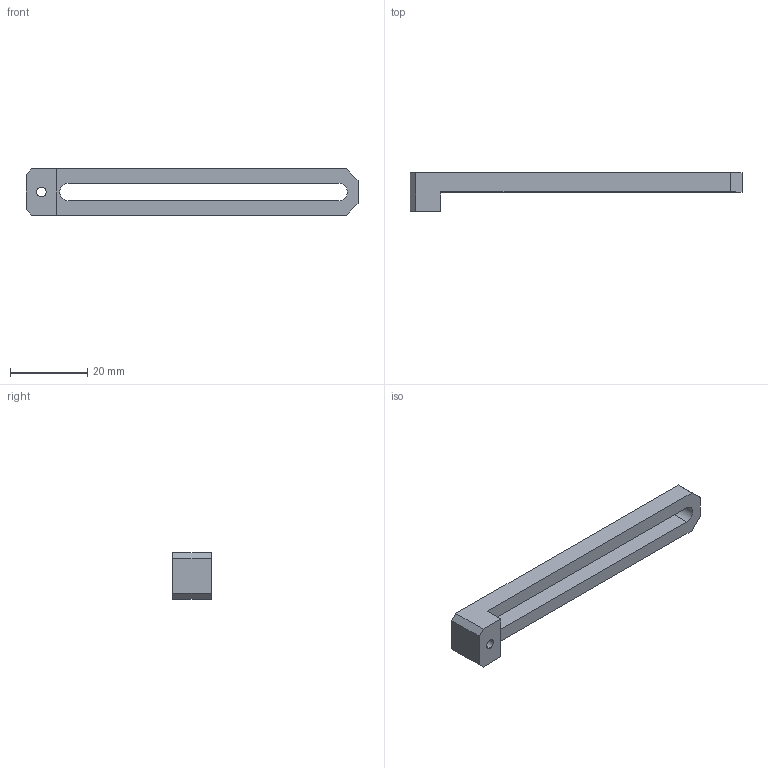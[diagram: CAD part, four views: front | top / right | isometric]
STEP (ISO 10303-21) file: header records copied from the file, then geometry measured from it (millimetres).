
FILE_DESCRIPTION (( 'STEP AP214' ), '1' );
FILE_NAME ('SCF1-70M3.STEP', '2019-11-06T07:38:16', ( '微软用户' ), ( '微软中国' ), 'SwSTEP 2.0', 'SolidWorks 2016', '' );
FILE_SCHEMA (( 'AUTOMOTIVE_DESIGN' ));
Length unit declared in the file: millimetre
Products named in the file (1): SCF1-70M3
Bounding box: 86 x 10 x 12 mm (x, y, z)
Volume: 3868.9 mm3; surface area: 3364 mm2
Topology: 1 solids, 1 shells, 19 faces, 51 edges, 34 vertices
Faces by surface type: plane 14, cylinder 5
Entity records: 637 total; most frequent: CARTESIAN_POINT 105, ORIENTED_EDGE 102, DIRECTION 101, EDGE_CURVE 51, VECTOR 41, LINE 41, VERTEX_POINT 34, AXIS2_PLACEMENT_3D 30
